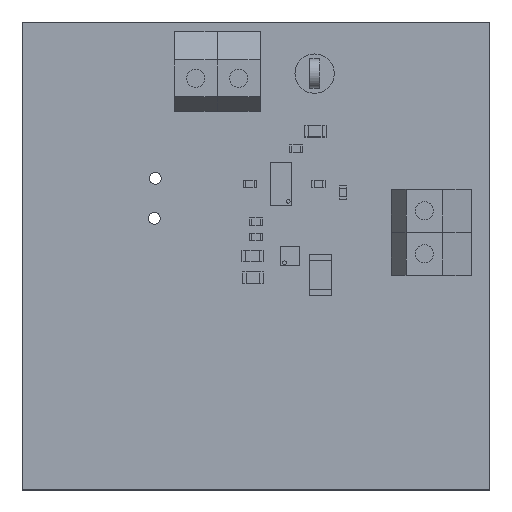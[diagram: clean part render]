
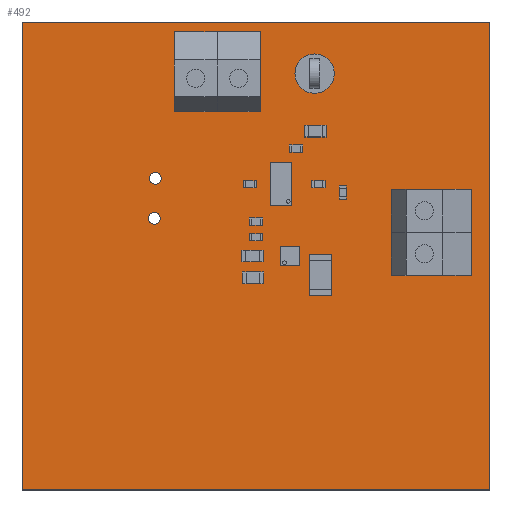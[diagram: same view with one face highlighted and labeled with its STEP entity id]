
A CAD part, top view. The second image highlights one B-rep face of the part: STEP entity #492.
In plain terms, the highlighted planar face has unit normal (0, 0, 1).
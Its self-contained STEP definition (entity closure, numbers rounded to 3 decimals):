
#111 = VERTEX_POINT('',#112);
#112 = CARTESIAN_POINT('',(0.,0.,0.));
#118 = EDGE_CURVE('',#111,#119,#121,.T.);
#119 = VERTEX_POINT('',#120);
#120 = CARTESIAN_POINT('',(38.1,0.,0.));
#121 = LINE('',#122,#123);
#122 = CARTESIAN_POINT('',(0.,0.,0.));
#123 = VECTOR('',#124,1.);
#124 = DIRECTION('',(1.,0.,0.));
#149 = EDGE_CURVE('',#119,#150,#152,.T.);
#150 = VERTEX_POINT('',#151);
#151 = CARTESIAN_POINT('',(38.1,38.1,0.));
#152 = LINE('',#153,#154);
#153 = CARTESIAN_POINT('',(38.1,0.,0.));
#154 = VECTOR('',#155,1.);
#155 = DIRECTION('',(0.,1.,0.));
#180 = EDGE_CURVE('',#150,#181,#183,.T.);
#181 = VERTEX_POINT('',#182);
#182 = CARTESIAN_POINT('',(0.,38.1,0.));
#183 = LINE('',#184,#185);
#184 = CARTESIAN_POINT('',(38.1,38.1,0.));
#185 = VECTOR('',#186,1.);
#186 = DIRECTION('',(-1.,0.,0.));
#211 = EDGE_CURVE('',#181,#111,#212,.T.);
#212 = LINE('',#213,#214);
#213 = CARTESIAN_POINT('',(0.,38.1,0.));
#214 = VECTOR('',#215,1.);
#215 = DIRECTION('',(0.,-1.,0.));
#235 = VERTEX_POINT('',#236);
#236 = CARTESIAN_POINT('',(11.252,22.123,0.));
#242 = EDGE_CURVE('',#235,#235,#243,.T.);
#243 = CIRCLE('',#244,0.482);
#244 = AXIS2_PLACEMENT_3D('',#245,#246,#247);
#245 = CARTESIAN_POINT('',(10.77,22.123,0.));
#246 = DIRECTION('',(0.,0.,1.));
#247 = DIRECTION('',(1.,0.,0.));
#268 = VERTEX_POINT('',#269);
#269 = CARTESIAN_POINT('',(11.328,25.375,0.));
#275 = EDGE_CURVE('',#268,#268,#276,.T.);
#276 = CIRCLE('',#277,0.482);
#277 = AXIS2_PLACEMENT_3D('',#278,#279,#280);
#278 = CARTESIAN_POINT('',(10.846,25.375,0.));
#279 = DIRECTION('',(0.,0.,1.));
#280 = DIRECTION('',(1.,0.,0.));
#301 = VERTEX_POINT('',#302);
#302 = CARTESIAN_POINT('',(14.783,33.503,0.));
#308 = EDGE_CURVE('',#301,#301,#309,.T.);
#309 = CIRCLE('',#310,0.635);
#310 = AXIS2_PLACEMENT_3D('',#311,#312,#313);
#311 = CARTESIAN_POINT('',(14.148,33.503,0.));
#312 = DIRECTION('',(0.,0.,1.));
#313 = DIRECTION('',(1.,0.,0.));
#334 = VERTEX_POINT('',#335);
#335 = CARTESIAN_POINT('',(33.401,22.708,0.));
#341 = EDGE_CURVE('',#334,#334,#342,.T.);
#342 = CIRCLE('',#343,0.635);
#343 = AXIS2_PLACEMENT_3D('',#344,#345,#346);
#344 = CARTESIAN_POINT('',(32.766,22.708,0.));
#345 = DIRECTION('',(0.,0.,1.));
#346 = DIRECTION('',(1.,0.,0.));
#367 = VERTEX_POINT('',#368);
#368 = CARTESIAN_POINT('',(33.401,19.202,0.));
#374 = EDGE_CURVE('',#367,#367,#375,.T.);
#375 = CIRCLE('',#376,0.635);
#376 = AXIS2_PLACEMENT_3D('',#377,#378,#379);
#377 = CARTESIAN_POINT('',(32.766,19.202,0.));
#378 = DIRECTION('',(0.,0.,1.));
#379 = DIRECTION('',(1.,0.,0.));
#400 = VERTEX_POINT('',#401);
#401 = CARTESIAN_POINT('',(18.288,33.503,0.));
#407 = EDGE_CURVE('',#400,#400,#408,.T.);
#408 = CIRCLE('',#409,0.635);
#409 = AXIS2_PLACEMENT_3D('',#410,#411,#412);
#410 = CARTESIAN_POINT('',(17.653,33.503,0.));
#411 = DIRECTION('',(0.,0.,1.));
#412 = DIRECTION('',(1.,0.,0.));
#433 = VERTEX_POINT('',#434);
#434 = CARTESIAN_POINT('',(24.625,33.909,0.));
#440 = EDGE_CURVE('',#433,#433,#441,.T.);
#441 = CIRCLE('',#442,0.8);
#442 = AXIS2_PLACEMENT_3D('',#443,#444,#445);
#443 = CARTESIAN_POINT('',(23.825,33.909,0.));
#444 = DIRECTION('',(0.,0.,1.));
#445 = DIRECTION('',(1.,0.,0.));
#492 = ADVANCED_FACE('',(#493,#499,#502,#505,#508,#511,#514,#517),#520,
  .F.);
#493 = FACE_BOUND('',#494,.T.);
#494 = EDGE_LOOP('',(#495,#496,#497,#498));
#495 = ORIENTED_EDGE('',*,*,#118,.T.);
#496 = ORIENTED_EDGE('',*,*,#149,.T.);
#497 = ORIENTED_EDGE('',*,*,#180,.T.);
#498 = ORIENTED_EDGE('',*,*,#211,.T.);
#499 = FACE_BOUND('',#500,.F.);
#500 = EDGE_LOOP('',(#501));
#501 = ORIENTED_EDGE('',*,*,#242,.T.);
#502 = FACE_BOUND('',#503,.F.);
#503 = EDGE_LOOP('',(#504));
#504 = ORIENTED_EDGE('',*,*,#275,.T.);
#505 = FACE_BOUND('',#506,.F.);
#506 = EDGE_LOOP('',(#507));
#507 = ORIENTED_EDGE('',*,*,#308,.T.);
#508 = FACE_BOUND('',#509,.F.);
#509 = EDGE_LOOP('',(#510));
#510 = ORIENTED_EDGE('',*,*,#341,.T.);
#511 = FACE_BOUND('',#512,.F.);
#512 = EDGE_LOOP('',(#513));
#513 = ORIENTED_EDGE('',*,*,#374,.T.);
#514 = FACE_BOUND('',#515,.F.);
#515 = EDGE_LOOP('',(#516));
#516 = ORIENTED_EDGE('',*,*,#407,.T.);
#517 = FACE_BOUND('',#518,.F.);
#518 = EDGE_LOOP('',(#519));
#519 = ORIENTED_EDGE('',*,*,#440,.T.);
#520 = PLANE('',#521);
#521 = AXIS2_PLACEMENT_3D('',#522,#523,#524);
#522 = CARTESIAN_POINT('',(0.,0.,0.));
#523 = DIRECTION('',(0.,0.,-1.));
#524 = DIRECTION('',(-1.,0.,0.));
